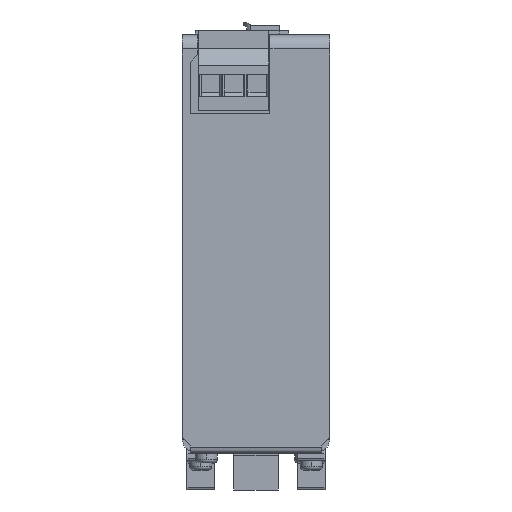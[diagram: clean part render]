
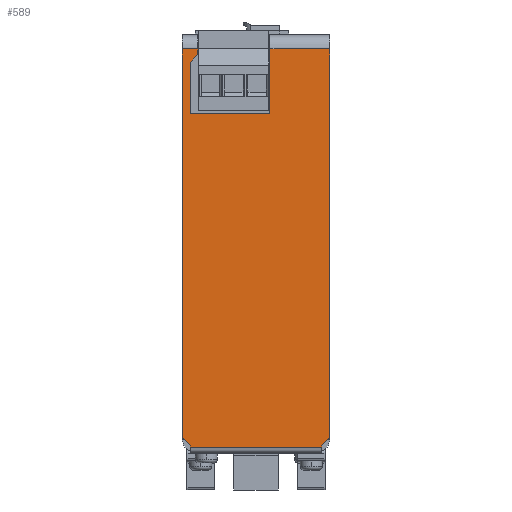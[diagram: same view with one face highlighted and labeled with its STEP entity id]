
A CAD part, front view. The second image highlights one B-rep face of the part: STEP entity #589.
In plain terms, the highlighted planar face has unit normal (0, -1, 0).
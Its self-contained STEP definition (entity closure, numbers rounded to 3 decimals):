
#589 = ADVANCED_FACE( '', ( #1696 ), #1697, .T. );
#1696 = FACE_OUTER_BOUND( '', #2841, .T. );
#1697 = PLANE( '', #2842 );
#2841 = EDGE_LOOP( '', ( #7380, #7381, #7382, #7383, #7384, #7385, #7386, #7387, #7388, #7389, #7390, #7391, #7392, #7393 ) );
#2842 = AXIS2_PLACEMENT_3D( '', #7394, #7395, #7396 );
#7380 = ORIENTED_EDGE( '', *, *, #8482, .T. );
#7381 = ORIENTED_EDGE( '', *, *, #8531, .T. );
#7382 = ORIENTED_EDGE( '', *, *, #9230, .T. );
#7383 = ORIENTED_EDGE( '', *, *, #9228, .T. );
#7384 = ORIENTED_EDGE( '', *, *, #9217, .T. );
#7385 = ORIENTED_EDGE( '', *, *, #9231, .F. );
#7386 = ORIENTED_EDGE( '', *, *, #9225, .T. );
#7387 = ORIENTED_EDGE( '', *, *, #9227, .T. );
#7388 = ORIENTED_EDGE( '', *, *, #9204, .F. );
#7389 = ORIENTED_EDGE( '', *, *, #8528, .T. );
#7390 = ORIENTED_EDGE( '', *, *, #8501, .T. );
#7391 = ORIENTED_EDGE( '', *, *, #8488, .T. );
#7392 = ORIENTED_EDGE( '', *, *, #8476, .T. );
#7393 = ORIENTED_EDGE( '', *, *, #8473, .T. );
#7394 = CARTESIAN_POINT( '', ( 20., -0.85, 109.2 ) );
#7395 = DIRECTION( '', ( 0., -1., 0. ) );
#7396 = DIRECTION( '', ( 0., 0., 1. ) );
#8473 = EDGE_CURVE( '', #10621, #10619, #10622, .T. );
#8476 = EDGE_CURVE( '', #10626, #10621, #10627, .T. );
#8482 = EDGE_CURVE( '', #10619, #10635, #10637, .T. );
#8488 = EDGE_CURVE( '', #10647, #10626, #10648, .T. );
#8501 = EDGE_CURVE( '', #10670, #10647, #10671, .T. );
#8528 = EDGE_CURVE( '', #10713, #10670, #10714, .T. );
#8531 = EDGE_CURVE( '', #10635, #10716, #10718, .T. );
#9204 = EDGE_CURVE( '', #10713, #11823, #11824, .T. );
#9217 = EDGE_CURVE( '', #11845, #11843, #11846, .T. );
#9225 = EDGE_CURVE( '', #11857, #11855, #11858, .T. );
#9227 = EDGE_CURVE( '', #11855, #11823, #11860, .T. );
#9228 = EDGE_CURVE( '', #11861, #11845, #11862, .T. );
#9230 = EDGE_CURVE( '', #10716, #11861, #11864, .T. );
#9231 = EDGE_CURVE( '', #11857, #11843, #11865, .T. );
#10619 = VERTEX_POINT( '', #13959 );
#10621 = VERTEX_POINT( '', #13962 );
#10622 = LINE( '', #13963, #13964 );
#10626 = VERTEX_POINT( '', #13970 );
#10627 = LINE( '', #13971, #13972 );
#10635 = VERTEX_POINT( '', #13984 );
#10637 = LINE( '', #13986, #13987 );
#10647 = VERTEX_POINT( '', #14000 );
#10648 = LINE( '', #14001, #14002 );
#10670 = VERTEX_POINT( '', #14034 );
#10671 = LINE( '', #14035, #14036 );
#10713 = VERTEX_POINT( '', #14099 );
#10714 = LINE( '', #14100, #14101 );
#10716 = VERTEX_POINT( '', #14103 );
#10718 = LINE( '', #14105, #14106 );
#11823 = VERTEX_POINT( '', #15775 );
#11824 = LINE( '', #15776, #15777 );
#11843 = VERTEX_POINT( '', #15806 );
#11845 = VERTEX_POINT( '', #15808 );
#11846 = LINE( '', #15809, #15810 );
#11855 = VERTEX_POINT( '', #15823 );
#11857 = VERTEX_POINT( '', #15826 );
#11858 = LINE( '', #15827, #15828 );
#11860 = LINE( '', #15830, #15831 );
#11861 = VERTEX_POINT( '', #15832 );
#11862 = LINE( '', #15833, #15834 );
#11864 = LINE( '', #15837, #15838 );
#11865 = LINE( '', #15839, #15840 );
#13959 = CARTESIAN_POINT( '', ( -15.856, -0.85, 107.625 ) );
#13962 = CARTESIAN_POINT( '', ( -17.856, -0.85, 105.625 ) );
#13963 = CARTESIAN_POINT( '', ( -7.498, -0.85, 115.983 ) );
#13964 = VECTOR( '', #16945, 1. );
#13970 = CARTESIAN_POINT( '', ( -17.856, -0.85, 91.625 ) );
#13971 = CARTESIAN_POINT( '', ( -17.856, -0.85, 100.413 ) );
#13972 = VECTOR( '', #16948, 1. );
#13984 = CARTESIAN_POINT( '', ( -15.856, -0.85, 109.2 ) );
#13986 = CARTESIAN_POINT( '', ( -15.856, -0.85, 108.413 ) );
#13987 = VECTOR( '', #16956, 1. );
#14000 = CARTESIAN_POINT( '', ( 3.794, -0.85, 91.625 ) );
#14001 = CARTESIAN_POINT( '', ( 11.897, -0.85, 91.625 ) );
#14002 = VECTOR( '', #16966, 1. );
#14034 = CARTESIAN_POINT( '', ( 3.794, -0.85, 109.2 ) );
#14035 = CARTESIAN_POINT( '', ( 3.794, -0.85, 112.913 ) );
#14036 = VECTOR( '', #16983, 1. );
#14099 = CARTESIAN_POINT( '', ( 20., -0.85, 109.2 ) );
#14100 = CARTESIAN_POINT( '', ( 20., -0.85, 109.2 ) );
#14101 = VECTOR( '', #17020, 1. );
#14103 = CARTESIAN_POINT( '', ( -20., -0.85, 109.2 ) );
#14105 = CARTESIAN_POINT( '', ( 20., -0.85, 109.2 ) );
#14106 = VECTOR( '', #17027, 1. );
#15775 = CARTESIAN_POINT( '', ( 20., -0.85, 3.65 ) );
#15776 = CARTESIAN_POINT( '', ( 20., -0.85, 109.2 ) );
#15777 = VECTOR( '', #18022, 1. );
#15806 = CARTESIAN_POINT( '', ( -17.8, -0.85, 1. ) );
#15808 = CARTESIAN_POINT( '', ( -17.8, -0.85, 1.45 ) );
#15809 = CARTESIAN_POINT( '', ( -17.8, -0.85, 55.325 ) );
#15810 = VECTOR( '', #18039, 1. );
#15823 = CARTESIAN_POINT( '', ( 17.8, -0.85, 1.45 ) );
#15826 = CARTESIAN_POINT( '', ( 17.8, -0.85, 1. ) );
#15827 = CARTESIAN_POINT( '', ( 17.8, -0.85, 53.825 ) );
#15828 = VECTOR( '', #18051, 1. );
#15830 = CARTESIAN_POINT( '', ( 45.288, -0.85, 28.938 ) );
#15831 = VECTOR( '', #18055, 1. );
#15832 = CARTESIAN_POINT( '', ( -20., -0.85, 3.65 ) );
#15833 = CARTESIAN_POINT( '', ( -36.388, -0.85, 20.038 ) );
#15834 = VECTOR( '', #18056, 1. );
#15837 = CARTESIAN_POINT( '', ( -20., -0.85, 109.2 ) );
#15838 = VECTOR( '', #18058, 1. );
#15839 = CARTESIAN_POINT( '', ( 20., -0.85, 1. ) );
#15840 = VECTOR( '', #18059, 1. );
#16945 = DIRECTION( '', ( 0.707, 0., 0.707 ) );
#16948 = DIRECTION( '', ( 0., 0., 1. ) );
#16956 = DIRECTION( '', ( 0., 0., 1. ) );
#16966 = DIRECTION( '', ( -1., 0., 0. ) );
#16983 = DIRECTION( '', ( 0., 0., -1. ) );
#17020 = DIRECTION( '', ( -1., 0., 0. ) );
#17027 = DIRECTION( '', ( -1., 0., 0. ) );
#18022 = DIRECTION( '', ( 0., 0., -1. ) );
#18039 = DIRECTION( '', ( 0., 0., -1. ) );
#18051 = DIRECTION( '', ( 0., 0., 1. ) );
#18055 = DIRECTION( '', ( 0.707, 0., 0.707 ) );
#18056 = DIRECTION( '', ( 0.707, 0., -0.707 ) );
#18058 = DIRECTION( '', ( 0., 0., -1. ) );
#18059 = DIRECTION( '', ( -1., 0., 0. ) );
